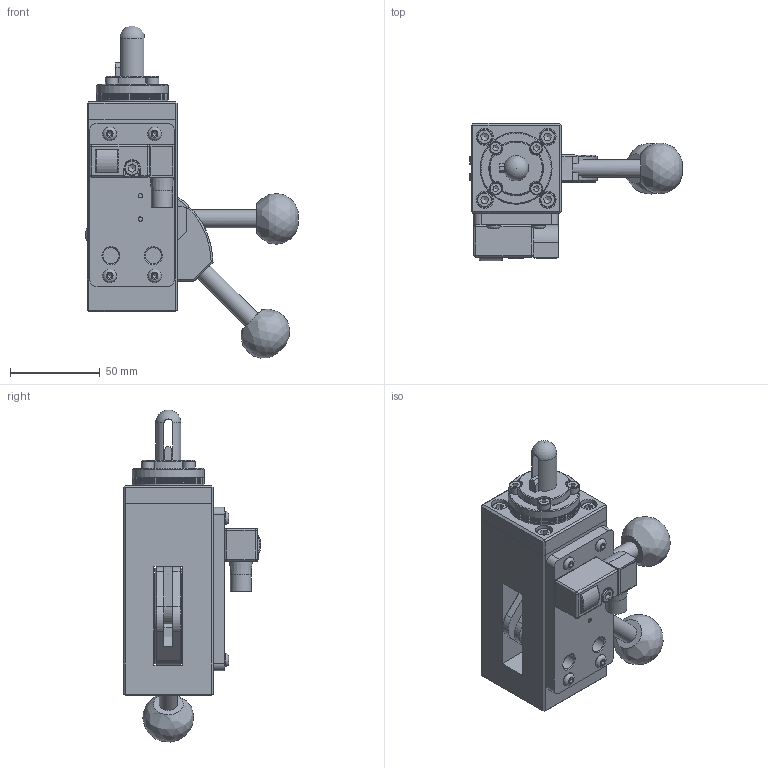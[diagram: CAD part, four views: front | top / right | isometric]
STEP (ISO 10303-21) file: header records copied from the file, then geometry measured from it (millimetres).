
FILE_DESCRIPTION(/* description */ (''),/* implementation_level */ '2;1');
FILE_NAME(/* name */ 'S:\Tom\INVENTOR FILES\AUTOMOTIVE\UNDERBODY CLAMPS\XPCB\SIMPLIFIED MODELS\STEP\XPCB-14-01-ES1-L.stp',/* time_stamp */ '2021-06-08T10:06:12+01:00',/* author */ ('RWilson'),/* organization */ (''),/* preprocessor_version */ 'ST-DEVELOPER v18.1',/* originating_system */ 'Autodesk Inventor 2021',/* authorisation */ '');
FILE_SCHEMA (('AUTOMOTIVE_DESIGN { 1 0 10303 214 3 1 1 }'));
Length unit declared in the file: millimetre
Products named in the file (10): XPCB-14-01-ES1-L; XPCB - BODY; XPCB - HANDLE; XPCB - TOP PLATE; XPCB - 1MM SHIM; XPCB - 0.5MM SHIM; XPCB - 14MM CLAMPING RING & PIN; XPCB - 14MM HOOK; XPCB - BLANKING COVER; XPCB - SWITCH ASSEMBLY
Assembly tree (13 placements, depth 2):
  XPCB-14-01-ES1-L
    XPCB - BODY
    XPCB - HANDLE  x2
    XPCB - TOP PLATE
    XPCB - 0.5MM SHIM  x2
    XPCB - 1MM SHIM  x3
    XPCB - 14MM CLAMPING RING & PIN
    XPCB - 14MM HOOK
    XPCB - BLANKING COVER
    XPCB - SWITCH ASSEMBLY
Bounding box: 118.37 x 76.31 x 184.64 mm (x, y, z)
Volume: 373026.7 mm3; surface area: 117284.5 mm2
Topology: 13 solids, 27 shells, 850 faces, 2200 edges, 1432 vertices
Faces by surface type: plane 386, cylinder 267, cone 125, torus 31, sphere 21, bspline 20
Full cylindrical faces by diameter (mm): 0.7 x8, 1.7 x1, 1.8 x2, 2 x1, 2.459 x6, 2.5 x3, 2.8 x2, 3 x4, 3.2 x2, 3.242 x8, 4 x8, 4.134 x1, 4.3 x2, 4.5 x4, 4.917 x3, 5 x4, 5.3 x1, 5.5 x2, 6 x3, 6.5 x2, 6.6 x3, 6.647 x12, 7 x4, 7.6 x4, 8 x6, 8.376 x2, 8.5 x5, 9 x3, 9.5 x4, 10 x5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
Entity records: 24723 total; most frequent: CARTESIAN_POINT 5118, DIRECTION 4210, ORIENTED_EDGE 3930, EDGE_CURVE 1965, AXIS2_PLACEMENT_3D 1636, VERTEX_POINT 1330, LINE 938, VECTOR 938
